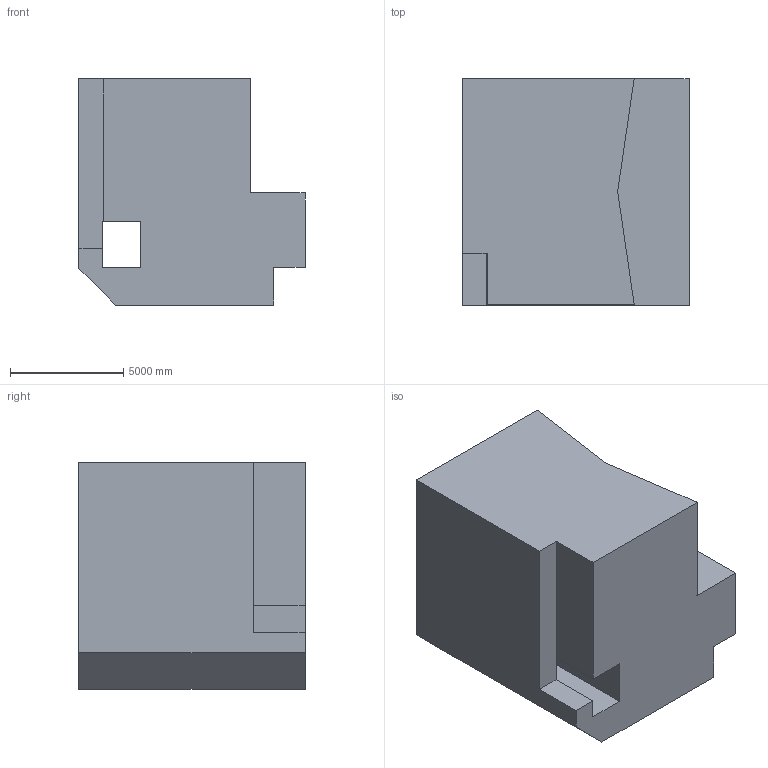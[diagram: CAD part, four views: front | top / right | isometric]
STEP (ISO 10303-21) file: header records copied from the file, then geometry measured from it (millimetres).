
FILE_DESCRIPTION (( 'STEP AP203' ), '1' );
FILE_NAME ('475.STEP', '2022-07-29T11:25:49', ( 'user' ), ( '' ), 'SwSTEP 2.0', 'SolidWorks 2021', '' );
FILE_SCHEMA (( 'CONFIG_CONTROL_DESIGN' ));
Length unit declared in the file: centimetre
Products named in the file (1): 475
Bounding box: 10000 x 10000 x 10000 mm (x, y, z)
Volume: 770574483733.9 mm3; surface area: 621604580.7 mm2
Topology: 1 solids, 1 shells, 19 faces, 54 edges, 36 vertices
Faces by surface type: plane 19
Entity records: 689 total; most frequent: CARTESIAN_POINT 110, ORIENTED_EDGE 108, DIRECTION 94, LINE 54, EDGE_CURVE 54, VECTOR 54, VERTEX_POINT 36, EDGE_LOOP 20
